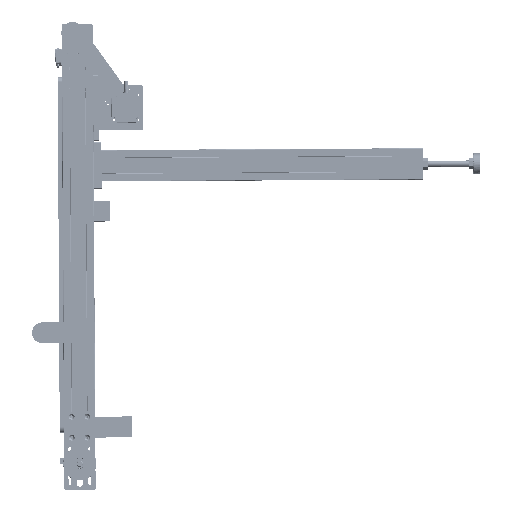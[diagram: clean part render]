
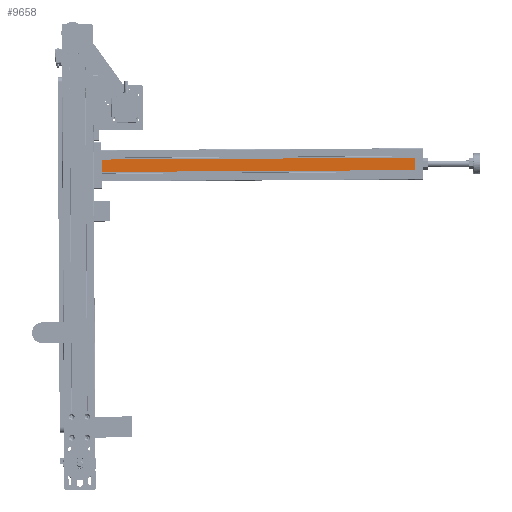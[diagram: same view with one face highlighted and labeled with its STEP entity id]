
A CAD part, left-side view. The second image highlights one B-rep face of the part: STEP entity #9658.
In plain terms, the highlighted planar face has unit normal (-1, 0, 0) as drawn and (0, 0, 1) by its records, which use the part's own axes.
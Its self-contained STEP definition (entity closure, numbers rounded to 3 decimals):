
#7383=PLANE('',#66723);
#9658=ADVANCED_FACE('',(#14135),#7383,.F.);
#14135=FACE_OUTER_BOUND('',#17345,.T.);
#17345=EDGE_LOOP('',(#31453,#31454,#31455,#31456));
#21344=LINE('',#89659,#25851);
#21346=LINE('',#89663,#25853);
#21347=LINE('',#89665,#25854);
#21348=LINE('',#89667,#25855);
#25851=VECTOR('',#73232,1.);
#25853=VECTOR('',#73236,1.);
#25854=VECTOR('',#73237,1.);
#25855=VECTOR('',#73238,1.);
#31453=ORIENTED_EDGE('',*,*,#55070,.T.);
#31454=ORIENTED_EDGE('',*,*,#55071,.F.);
#31455=ORIENTED_EDGE('',*,*,#55072,.F.);
#31456=ORIENTED_EDGE('',*,*,#55068,.T.);
#48931=VERTEX_POINT('',#89658);
#48932=VERTEX_POINT('',#89660);
#48933=VERTEX_POINT('',#89664);
#48934=VERTEX_POINT('',#89666);
#55068=EDGE_CURVE('',#48932,#48931,#21344,.T.);
#55070=EDGE_CURVE('',#48931,#48933,#21346,.T.);
#55071=EDGE_CURVE('',#48934,#48933,#21347,.T.);
#55072=EDGE_CURVE('',#48932,#48934,#21348,.T.);
#66723=AXIS2_PLACEMENT_3D('',#89668,#73239,#73240);
#73232=DIRECTION('',(-1.,0.,0.));
#73236=DIRECTION('',(0.,-1.,0.));
#73237=DIRECTION('',(-1.,0.,0.));
#73238=DIRECTION('',(0.,-1.,0.));
#73239=DIRECTION('',(0.,0.,-1.));
#73240=DIRECTION('',(1.,0.,0.));
#89658=CARTESIAN_POINT('',(0.,11.85,15.));
#89659=CARTESIAN_POINT('',(600.,11.85,15.));
#89660=CARTESIAN_POINT('',(600.,11.85,15.));
#89663=CARTESIAN_POINT('',(0.,11.85,15.));
#89664=CARTESIAN_POINT('',(0.,-11.85,15.));
#89665=CARTESIAN_POINT('',(600.,-11.85,15.));
#89666=CARTESIAN_POINT('',(600.,-11.85,15.));
#89667=CARTESIAN_POINT('',(600.,11.85,15.));
#89668=CARTESIAN_POINT('',(600.,11.85,15.));
